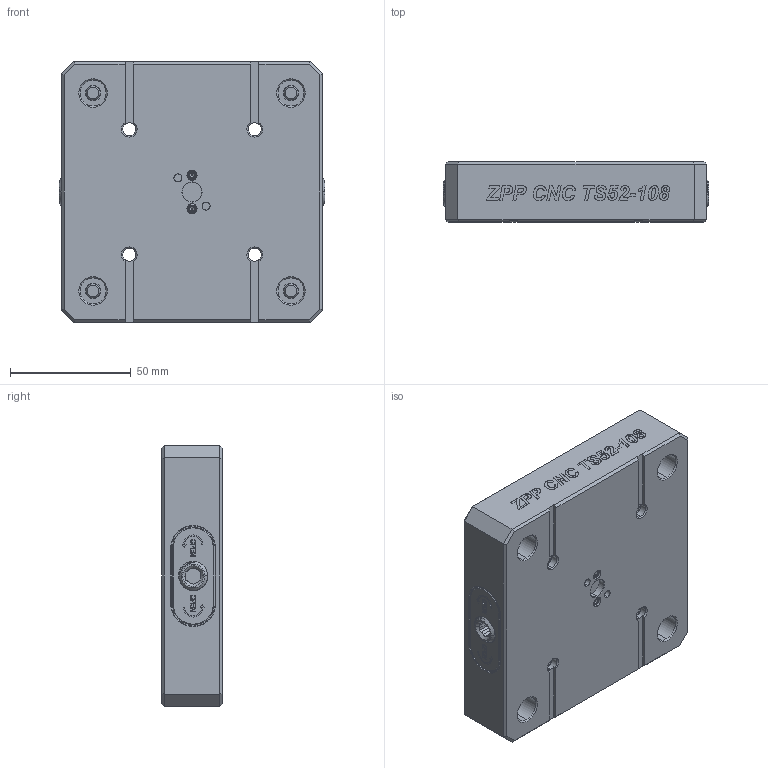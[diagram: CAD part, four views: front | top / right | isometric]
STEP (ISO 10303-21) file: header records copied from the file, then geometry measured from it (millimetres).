
FILE_DESCRIPTION((''),'2;1');
FILE_NAME('TS52-SS','2023-11-22T15:02:56',('XF'),(''),'CREO PARAMETRIC BY PTC INC, 2022073','CREO PARAMETRIC BY PTC INC, 2022073','');
FILE_SCHEMA(('CONFIG_CONTROL_DESIGN'));
Products named in the file (1): TS52-SS
Bounding box: 110 x 25 x 108 mm (x, y, z)
Volume: 257056 mm3; surface area: 46942.8 mm2
Topology: 5 solids, 5 shells, 3455 faces, 8292 edges, 5290 vertices
Faces by surface type: plane 1413, cone 1212, extrusion 530, cylinder 214, bspline 46, torus 40
Entity records: 107908 total; most frequent: CARTESIAN_POINT 28223, ORIENTED_EDGE 16584, DIRECTION 15502, EDGE_CURVE 8292, VECTOR 5304, VERTEX_POINT 5290, AXIS2_PLACEMENT_3D 5099, LINE 4774
